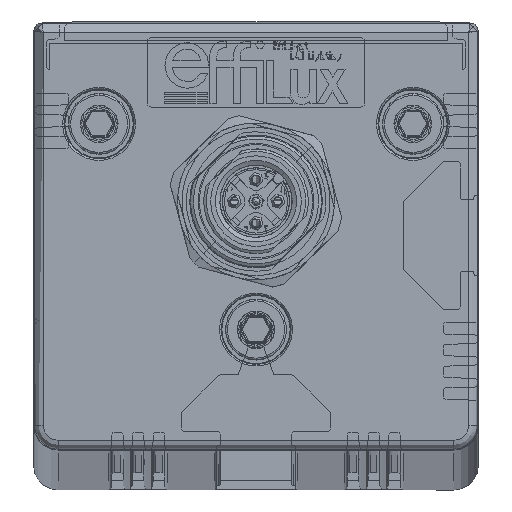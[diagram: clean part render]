
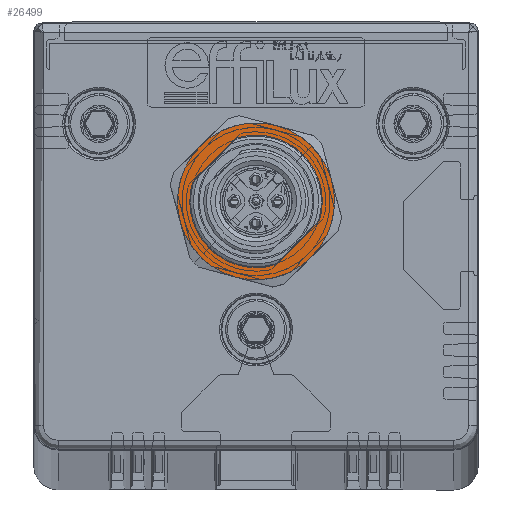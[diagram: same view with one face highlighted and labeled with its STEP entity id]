
A CAD part, top view. The second image highlights one B-rep face of the part: STEP entity #26499.
In plain terms, the highlighted planar face has unit normal (0, 0, 1).
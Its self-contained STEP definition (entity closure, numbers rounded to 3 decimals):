
#512 = DIRECTION ( 'NONE',  ( 0., 0., -1. ) ) ;
#539 = DIRECTION ( 'NONE',  ( 0., 0., -1. ) ) ;
#737 = VERTEX_POINT ( 'NONE', #55962 ) ;
#954 = EDGE_CURVE ( 'NONE', #41702, #6600, #51909, .T. ) ;
#4147 = ORIENTED_EDGE ( 'NONE', *, *, #26659, .F. ) ;
#4691 = CIRCLE ( 'NONE', #27591, 9. ) ;
#6600 = VERTEX_POINT ( 'NONE', #40166 ) ;
#7359 = CIRCLE ( 'NONE', #42694, 7.6 ) ;
#7697 = VERTEX_POINT ( 'NONE', #56340 ) ;
#8470 = AXIS2_PLACEMENT_3D ( 'NONE', #45929, #54070, #18088 ) ;
#8515 = FACE_BOUND ( 'NONE', #49773, .T. ) ;
#9182 = CIRCLE ( 'NONE', #26357, 9. ) ;
#9872 = CARTESIAN_POINT ( 'NONE',  ( 0., 0., 7.1 ) ) ;
#10265 = EDGE_CURVE ( 'NONE', #7697, #737, #36211, .T. ) ;
#10424 = DIRECTION ( 'NONE',  ( 0., -1., 0. ) ) ;
#10444 = CARTESIAN_POINT ( 'NONE',  ( 0., 0., 7.1 ) ) ;
#10589 = CARTESIAN_POINT ( 'NONE',  ( -4.5, -7.794, 7.1 ) ) ;
#11739 = AXIS2_PLACEMENT_3D ( 'NONE', #51693, #28949, #55592 ) ;
#12485 = AXIS2_PLACEMENT_3D ( 'NONE', #50082, #54307, #44706 ) ;
#13402 = CARTESIAN_POINT ( 'NONE',  ( 0., 7.6, 7.1 ) ) ;
#13505 = DIRECTION ( 'NONE',  ( 0., 1., 0. ) ) ;
#14153 = EDGE_CURVE ( 'NONE', #22862, #26593, #56609, .T. ) ;
#14446 = DIRECTION ( 'NONE',  ( 0., 1., 0. ) ) ;
#14689 = VERTEX_POINT ( 'NONE', #28378 ) ;
#15115 = EDGE_CURVE ( 'NONE', #737, #41334, #27869, .T. ) ;
#15399 = ORIENTED_EDGE ( 'NONE', *, *, #15115, .F. ) ;
#15406 = VECTOR ( 'NONE', #14446, 1000. ) ;
#16257 = CARTESIAN_POINT ( 'NONE',  ( 0., 0., 7.1 ) ) ;
#16545 = DIRECTION ( 'NONE',  ( 0., 1., 0. ) ) ;
#17015 = DIRECTION ( 'NONE',  ( 0., 1., 0. ) ) ;
#18088 = DIRECTION ( 'NONE',  ( 0., 1., 0. ) ) ;
#18618 = ORIENTED_EDGE ( 'NONE', *, *, #55262, .T. ) ;
#19271 = EDGE_CURVE ( 'NONE', #41334, #22862, #51247, .T. ) ;
#19394 = LINE ( 'NONE', #55913, #22423 ) ;
#20528 = CIRCLE ( 'NONE', #39649, 7.6 ) ;
#20750 = EDGE_LOOP ( 'NONE', ( #47437, #52562, #31517, #21944, #47708, #15399, #53845 ) ) ;
#20912 = ORIENTED_EDGE ( 'NONE', *, *, #954, .T. ) ;
#21515 = DIRECTION ( 'NONE',  ( 0., 0., -1. ) ) ;
#21640 = CARTESIAN_POINT ( 'NONE',  ( -6.7, 3.587, 7.1 ) ) ;
#21944 = ORIENTED_EDGE ( 'NONE', *, *, #14153, .F. ) ;
#22423 = VECTOR ( 'NONE', #10424, 1000. ) ;
#22862 = VERTEX_POINT ( 'NONE', #36791 ) ;
#23573 = EDGE_CURVE ( 'NONE', #26593, #14689, #40945, .T. ) ;
#24271 = CARTESIAN_POINT ( 'NONE',  ( 9., 0., 7.1 ) ) ;
#24675 = VERTEX_POINT ( 'NONE', #21640 ) ;
#26357 = AXIS2_PLACEMENT_3D ( 'NONE', #34693, #21515, #17015 ) ;
#26499 = ADVANCED_FACE ( 'NONE', ( #36010, #8515 ), #59109, .T. ) ;
#26593 = VERTEX_POINT ( 'NONE', #10589 ) ;
#26659 = EDGE_CURVE ( 'NONE', #49623, #6600, #42288, .T. ) ;
#27591 = AXIS2_PLACEMENT_3D ( 'NONE', #10444, #539, #55352 ) ;
#27869 = CIRCLE ( 'NONE', #29789, 9. ) ;
#27931 = CARTESIAN_POINT ( 'NONE',  ( 6.7, 0., 7.1 ) ) ;
#28378 = CARTESIAN_POINT ( 'NONE',  ( -9., 0., 7.1 ) ) ;
#28620 = AXIS2_PLACEMENT_3D ( 'NONE', #16257, #35095, #16545 ) ;
#28676 = CARTESIAN_POINT ( 'NONE',  ( 0., 0., 7.1 ) ) ;
#28949 = DIRECTION ( 'NONE',  ( 0., 0., -1. ) ) ;
#29789 = AXIS2_PLACEMENT_3D ( 'NONE', #57040, #48614, #33976 ) ;
#31517 = ORIENTED_EDGE ( 'NONE', *, *, #23573, .F. ) ;
#31702 = DIRECTION ( 'NONE',  ( 1., 0., 0. ) ) ;
#32697 = AXIS2_PLACEMENT_3D ( 'NONE', #40691, #54210, #49684 ) ;
#33808 = EDGE_CURVE ( 'NONE', #47783, #7697, #4691, .T. ) ;
#33976 = DIRECTION ( 'NONE',  ( 0., 1., 0. ) ) ;
#34693 = CARTESIAN_POINT ( 'NONE',  ( 0., 0., 7.1 ) ) ;
#35095 = DIRECTION ( 'NONE',  ( 0., 0., -1. ) ) ;
#36010 = FACE_OUTER_BOUND ( 'NONE', #20750, .T. ) ;
#36211 = CIRCLE ( 'NONE', #28620, 9. ) ;
#36473 = DIRECTION ( 'NONE',  ( 0., 0., -1. ) ) ;
#36791 = CARTESIAN_POINT ( 'NONE',  ( 4.5, -7.794, 7.1 ) ) ;
#36856 = CARTESIAN_POINT ( 'NONE',  ( 0., 0., 7.1 ) ) ;
#38429 = ORIENTED_EDGE ( 'NONE', *, *, #55253, .F. ) ;
#38699 = ORIENTED_EDGE ( 'NONE', *, *, #52401, .T. ) ;
#39649 = AXIS2_PLACEMENT_3D ( 'NONE', #28676, #512, #41823 ) ;
#40166 = CARTESIAN_POINT ( 'NONE',  ( 6.7, 3.587, 7.1 ) ) ;
#40691 = CARTESIAN_POINT ( 'NONE',  ( 0., 0., 7.1 ) ) ;
#40945 = CIRCLE ( 'NONE', #8470, 9. ) ;
#41334 = VERTEX_POINT ( 'NONE', #24271 ) ;
#41702 = VERTEX_POINT ( 'NONE', #13402 ) ;
#41823 = DIRECTION ( 'NONE',  ( 1., 0., 0. ) ) ;
#42288 = LINE ( 'NONE', #27931, #15406 ) ;
#42694 = AXIS2_PLACEMENT_3D ( 'NONE', #9872, #36473, #31702 ) ;
#43361 = CARTESIAN_POINT ( 'NONE',  ( -4.5, 7.794, 7.1 ) ) ;
#43585 = AXIS2_PLACEMENT_3D ( 'NONE', #36856, #46425, #13505 ) ;
#44706 = DIRECTION ( 'NONE',  ( 1., 0., 0. ) ) ;
#45680 = CARTESIAN_POINT ( 'NONE',  ( -6.7, -3.587, 7.1 ) ) ;
#45929 = CARTESIAN_POINT ( 'NONE',  ( 0., 0., 7.1 ) ) ;
#46425 = DIRECTION ( 'NONE',  ( 0., 0., -1. ) ) ;
#47437 = ORIENTED_EDGE ( 'NONE', *, *, #33808, .F. ) ;
#47526 = CARTESIAN_POINT ( 'NONE',  ( 6.7, -3.587, 7.1 ) ) ;
#47708 = ORIENTED_EDGE ( 'NONE', *, *, #19271, .F. ) ;
#47783 = VERTEX_POINT ( 'NONE', #43361 ) ;
#48614 = DIRECTION ( 'NONE',  ( 0., 0., -1. ) ) ;
#49623 = VERTEX_POINT ( 'NONE', #47526 ) ;
#49684 = DIRECTION ( 'NONE',  ( 0., 1., 0. ) ) ;
#49773 = EDGE_LOOP ( 'NONE', ( #4147, #38699, #38429, #18618, #20912 ) ) ;
#50082 = CARTESIAN_POINT ( 'NONE',  ( 0., 7.6, 7.1 ) ) ;
#50806 = VERTEX_POINT ( 'NONE', #45680 ) ;
#51247 = CIRCLE ( 'NONE', #43585, 9. ) ;
#51693 = CARTESIAN_POINT ( 'NONE',  ( 0., 0., 7.1 ) ) ;
#51909 = CIRCLE ( 'NONE', #11739, 7.6 ) ;
#52401 = EDGE_CURVE ( 'NONE', #49623, #50806, #7359, .T. ) ;
#52562 = ORIENTED_EDGE ( 'NONE', *, *, #55994, .F. ) ;
#53845 = ORIENTED_EDGE ( 'NONE', *, *, #10265, .F. ) ;
#54070 = DIRECTION ( 'NONE',  ( 0., 0., -1. ) ) ;
#54210 = DIRECTION ( 'NONE',  ( 0., 0., -1. ) ) ;
#54307 = DIRECTION ( 'NONE',  ( 0., 0., 1. ) ) ;
#55253 = EDGE_CURVE ( 'NONE', #24675, #50806, #19394, .T. ) ;
#55262 = EDGE_CURVE ( 'NONE', #24675, #41702, #20528, .T. ) ;
#55352 = DIRECTION ( 'NONE',  ( 0., 1., 0. ) ) ;
#55592 = DIRECTION ( 'NONE',  ( 1., 0., 0. ) ) ;
#55913 = CARTESIAN_POINT ( 'NONE',  ( -6.7, 0., 7.1 ) ) ;
#55962 = CARTESIAN_POINT ( 'NONE',  ( 4.5, 7.794, 7.1 ) ) ;
#55994 = EDGE_CURVE ( 'NONE', #14689, #47783, #9182, .T. ) ;
#56340 = CARTESIAN_POINT ( 'NONE',  ( 0., 9., 7.1 ) ) ;
#56609 = CIRCLE ( 'NONE', #32697, 9. ) ;
#57040 = CARTESIAN_POINT ( 'NONE',  ( 0., 0., 7.1 ) ) ;
#59109 = PLANE ( 'NONE',  #12485 ) ;
